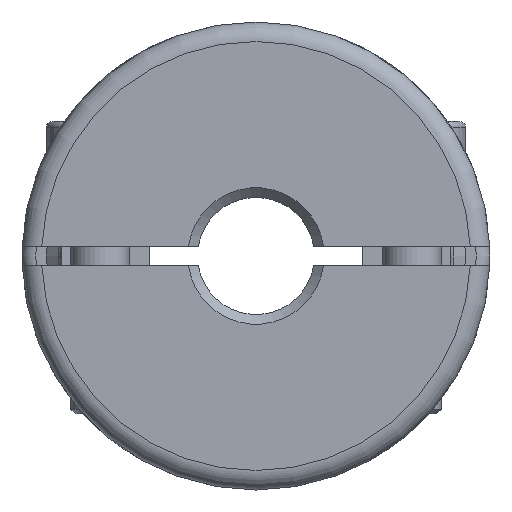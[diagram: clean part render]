
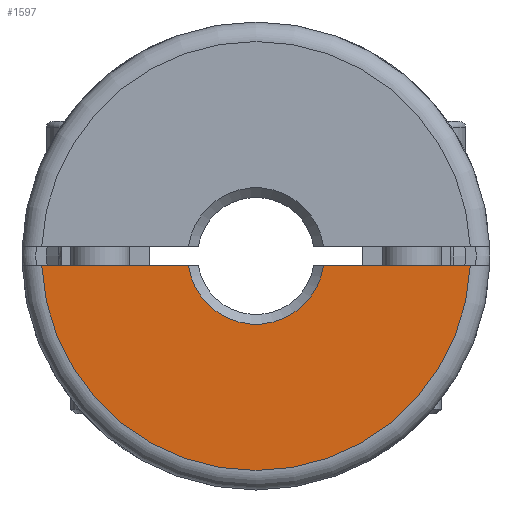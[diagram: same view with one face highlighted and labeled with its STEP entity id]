
A CAD part, left-side view. The second image highlights one B-rep face of the part: STEP entity #1597.
In plain terms, the highlighted planar face has unit normal (-1, 0, 0) as drawn and (1, 0, 0) by its records, which use the part's own axes.
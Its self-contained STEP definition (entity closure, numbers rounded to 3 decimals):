
#20=LINE('',#2724,#68);
#21=LINE('',#2728,#69);
#68=VECTOR('',#2228,1000.);
#69=VECTOR('',#2231,1000.);
#242=PLANE('',#1848);
#402=ORIENTED_EDGE('',*,*,#696,.T.);
#403=ORIENTED_EDGE('',*,*,#697,.T.);
#404=ORIENTED_EDGE('',*,*,#698,.T.);
#405=ORIENTED_EDGE('',*,*,#692,.T.);
#692=EDGE_CURVE('',#870,#871,#1017,.T.);
#696=EDGE_CURVE('',#871,#874,#20,.T.);
#697=EDGE_CURVE('',#874,#875,#1019,.T.);
#698=EDGE_CURVE('',#875,#870,#21,.T.);
#870=VERTEX_POINT('',#2710);
#871=VERTEX_POINT('',#2711);
#874=VERTEX_POINT('',#2725);
#875=VERTEX_POINT('',#2727);
#1017=CIRCLE('',#1846,3.5);
#1019=CIRCLE('',#1849,11.);
#1193=EDGE_LOOP('',(#402,#403,#404,#405));
#1412=FACE_BOUND('',#1193,.T.);
#1597=ADVANCED_FACE('',(#1412),#242,.T.);
#1846=AXIS2_PLACEMENT_3D('',#2709,#2222,#2223);
#1848=AXIS2_PLACEMENT_3D('',#2723,#2226,#2227);
#1849=AXIS2_PLACEMENT_3D('',#2726,#2229,#2230);
#2222=DIRECTION('',(-1.,0.,0.));
#2223=DIRECTION('',(0.,0.,1.));
#2226=DIRECTION('',(1.,0.,0.));
#2227=DIRECTION('',(0.,0.,-1.));
#2228=DIRECTION('',(0.,-1.,0.));
#2229=DIRECTION('',(1.,0.,0.));
#2230=DIRECTION('',(0.,0.,-1.));
#2231=DIRECTION('',(0.,-1.,0.));
#2709=CARTESIAN_POINT('',(12.5,0.,0.));
#2710=CARTESIAN_POINT('',(12.5,3.464,-0.5));
#2711=CARTESIAN_POINT('',(12.5,-3.464,-0.5));
#2723=CARTESIAN_POINT('',(12.5,12.,0.));
#2724=CARTESIAN_POINT('',(12.5,12.,-0.5));
#2725=CARTESIAN_POINT('',(12.5,-10.989,-0.5));
#2726=CARTESIAN_POINT('',(12.5,0.,0.));
#2727=CARTESIAN_POINT('',(12.5,10.989,-0.5));
#2728=CARTESIAN_POINT('',(12.5,12.,-0.5));
